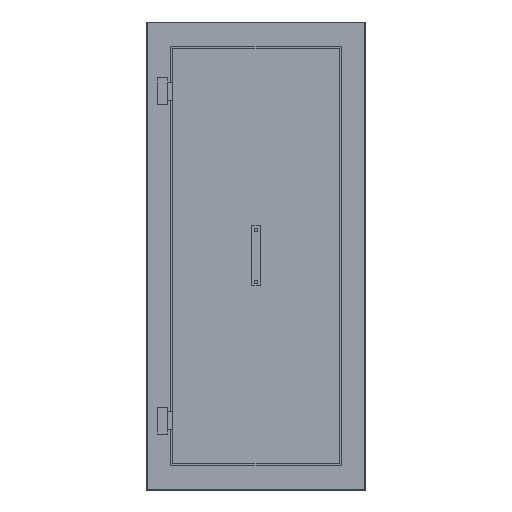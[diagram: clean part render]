
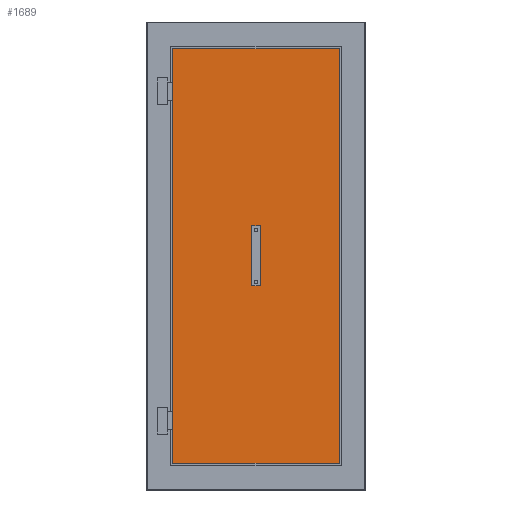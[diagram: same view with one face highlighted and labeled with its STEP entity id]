
A CAD part, top view. The second image highlights one B-rep face of the part: STEP entity #1689.
In plain terms, the highlighted planar face has unit normal (0, 0, 1).
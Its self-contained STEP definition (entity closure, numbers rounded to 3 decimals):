
#463=DIRECTION('',(0.,-1.,0.));
#464=VECTOR('',#463,2002.);
#465=CARTESIAN_POINT('',(-401.,1001.,69.));
#466=LINE('',#465,#464);
#467=DIRECTION('',(-1.,0.,0.));
#468=VECTOR('',#467,802.);
#469=CARTESIAN_POINT('',(401.,1001.,69.));
#470=LINE('',#469,#468);
#471=DIRECTION('',(0.,1.,0.));
#472=VECTOR('',#471,2002.);
#473=CARTESIAN_POINT('',(401.,-1001.,69.));
#474=LINE('',#473,#472);
#475=DIRECTION('',(1.,0.,0.));
#476=VECTOR('',#475,802.);
#477=CARTESIAN_POINT('',(-401.,-1001.,69.));
#478=LINE('',#477,#476);
#479=CARTESIAN_POINT('',(0.,0.,69.));
#480=DIRECTION('',(0.,0.,1.));
#481=DIRECTION('',(1.,0.,0.));
#482=AXIS2_PLACEMENT_3D('',#479,#480,#481);
#484=CARTESIAN_POINT('',(0.,0.,69.));
#485=DIRECTION('',(0.,0.,1.));
#486=DIRECTION('',(-1.,0.,0.));
#487=AXIS2_PLACEMENT_3D('',#484,#485,#486);
#889=CARTESIAN_POINT('',(-401.,1001.,69.));
#890=CARTESIAN_POINT('',(-401.,-1001.,69.));
#891=VERTEX_POINT('',#889);
#892=VERTEX_POINT('',#890);
#893=CARTESIAN_POINT('',(401.,-1001.,69.));
#894=VERTEX_POINT('',#893);
#895=CARTESIAN_POINT('',(401.,1001.,69.));
#896=VERTEX_POINT('',#895);
#973=CARTESIAN_POINT('',(20.,0.,69.));
#974=CARTESIAN_POINT('',(-20.,0.,69.));
#975=VERTEX_POINT('',#973);
#976=VERTEX_POINT('',#974);
#1670=CARTESIAN_POINT('',(0.,0.,69.));
#1671=DIRECTION('',(0.,0.,1.));
#1672=DIRECTION('',(1.,0.,0.));
#1673=AXIS2_PLACEMENT_3D('',#1670,#1671,#1672);
#1674=PLANE('',#1673);
#1676=ORIENTED_EDGE('',*,*,#1675,.F.);
#1678=ORIENTED_EDGE('',*,*,#1677,.F.);
#1680=ORIENTED_EDGE('',*,*,#1679,.F.);
#1682=ORIENTED_EDGE('',*,*,#1681,.F.);
#1683=EDGE_LOOP('',(#1676,#1678,#1680,#1682));
#1684=FACE_OUTER_BOUND('',#1683,.F.);
#1685=ORIENTED_EDGE('',*,*,#1245,.T.);
#1686=ORIENTED_EDGE('',*,*,#1652,.T.);
#1687=EDGE_LOOP('',(#1685,#1686));
#1688=FACE_BOUND('',#1687,.F.);
#483=CIRCLE('',#482,20.);
#488=CIRCLE('',#487,20.);
#1245=EDGE_CURVE('',#975,#976,#483,.T.);
#1652=EDGE_CURVE('',#976,#975,#488,.T.);
#1675=EDGE_CURVE('',#891,#892,#466,.T.);
#1677=EDGE_CURVE('',#896,#891,#470,.T.);
#1679=EDGE_CURVE('',#894,#896,#474,.T.);
#1681=EDGE_CURVE('',#892,#894,#478,.T.);
#1689=ADVANCED_FACE('',(#1684,#1688),#1674,.T.);
